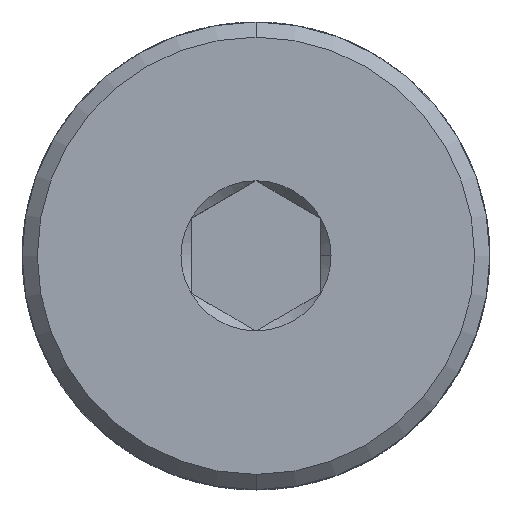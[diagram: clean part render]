
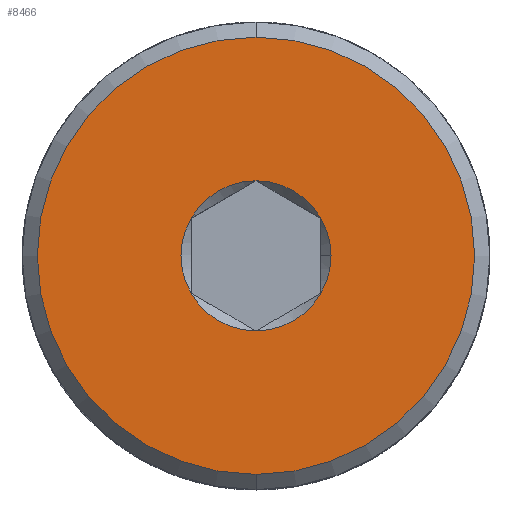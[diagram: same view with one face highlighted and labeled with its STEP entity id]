
A CAD part, top view. The second image highlights one B-rep face of the part: STEP entity #8466.
In plain terms, the highlighted planar face has unit normal (0, 0, 1).
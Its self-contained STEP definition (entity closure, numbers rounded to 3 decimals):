
#222 = AXIS2_PLACEMENT_3D ( 'NONE', #8044, #8034, #8017 ) ;
#1772 = VERTEX_POINT ( 'NONE', #4911 ) ;
#1993 = CARTESIAN_POINT ( 'NONE',  ( 0., 0., 0. ) ) ;
#2443 = FACE_BOUND ( 'NONE', #6124, .T. ) ;
#2459 = EDGE_CURVE ( 'NONE', #1772, #4855, #5043, .T. ) ;
#2600 = AXIS2_PLACEMENT_3D ( 'NONE', #6336, #6215, #6118 ) ;
#2688 = DIRECTION ( 'NONE',  ( 0., -1., 0. ) ) ;
#3031 = DIRECTION ( 'NONE',  ( 0., 0., 1. ) ) ;
#3093 = DIRECTION ( 'NONE',  ( 1., 0., 0. ) ) ;
#3151 = DIRECTION ( 'NONE',  ( 0., 0., 1. ) ) ;
#3309 = VERTEX_POINT ( 'NONE', #12636 ) ;
#3352 = EDGE_LOOP ( 'NONE', ( #12142, #11910 ) ) ;
#3426 = PLANE ( 'NONE',  #7536 ) ;
#3622 = CARTESIAN_POINT ( 'NONE',  ( 0., 0., 0. ) ) ;
#3768 = ORIENTED_EDGE ( 'NONE', *, *, #5733, .F. ) ;
#4000 = CARTESIAN_POINT ( 'NONE',  ( 0., 0., 0. ) ) ;
#4042 = CARTESIAN_POINT ( 'NONE',  ( 1.25, -0.722, 0. ) ) ;
#4107 = AXIS2_PLACEMENT_3D ( 'NONE', #3622, #11524, #4921 ) ;
#4365 = CARTESIAN_POINT ( 'NONE',  ( 1.25, 0.722, 0. ) ) ;
#4753 = CIRCLE ( 'NONE', #10104, 1.443 ) ;
#4855 = VERTEX_POINT ( 'NONE', #11691 ) ;
#4896 = CIRCLE ( 'NONE', #222, 1.443 ) ;
#4911 = CARTESIAN_POINT ( 'NONE',  ( 0., 1.443, 0. ) ) ;
#4921 = DIRECTION ( 'NONE',  ( 0., -1., 0. ) ) ;
#5037 = DIRECTION ( 'NONE',  ( 1., 0., 0. ) ) ;
#5043 = CIRCLE ( 'NONE', #7466, 1.443 ) ;
#5086 = VERTEX_POINT ( 'NONE', #4042 ) ;
#5309 = AXIS2_PLACEMENT_3D ( 'NONE', #5723, #5676, #5037 ) ;
#5676 = DIRECTION ( 'NONE',  ( 0., 0., 1. ) ) ;
#5723 = CARTESIAN_POINT ( 'NONE',  ( 0., 0., 0. ) ) ;
#5733 = EDGE_CURVE ( 'NONE', #4855, #8852, #4753, .T. ) ;
#6019 = EDGE_CURVE ( 'NONE', #5086, #11053, #7672, .T. ) ;
#6093 = ORIENTED_EDGE ( 'NONE', *, *, #10974, .F. ) ;
#6118 = DIRECTION ( 'NONE',  ( 1., 0., 0. ) ) ;
#6124 = EDGE_LOOP ( 'NONE', ( #11684, #9141, #3768, #11615, #6093, #11949, #11664 ) ) ;
#6215 = DIRECTION ( 'NONE',  ( 0., 0., 1. ) ) ;
#6336 = CARTESIAN_POINT ( 'NONE',  ( 0., 0., 0. ) ) ;
#6384 = CARTESIAN_POINT ( 'NONE',  ( 0., 0., 0. ) ) ;
#6589 = CARTESIAN_POINT ( 'NONE',  ( 0., -4.207, 0. ) ) ;
#7064 = CIRCLE ( 'NONE', #7333, 1.443 ) ;
#7306 = DIRECTION ( 'NONE',  ( 0., 0., 1. ) ) ;
#7333 = AXIS2_PLACEMENT_3D ( 'NONE', #4000, #3151, #3093 ) ;
#7466 = AXIS2_PLACEMENT_3D ( 'NONE', #8589, #8634, #8654 ) ;
#7536 = AXIS2_PLACEMENT_3D ( 'NONE', #6384, #3031, #2688 ) ;
#7537 = CARTESIAN_POINT ( 'NONE',  ( 1.443, 0., 0. ) ) ;
#7583 = VERTEX_POINT ( 'NONE', #11534 ) ;
#7627 = CIRCLE ( 'NONE', #5309, 1.443 ) ;
#7672 = CIRCLE ( 'NONE', #11225, 1.443 ) ;
#7780 = EDGE_CURVE ( 'NONE', #8852, #7583, #7627, .T. ) ;
#8017 = DIRECTION ( 'NONE',  ( 1., 0., 0. ) ) ;
#8034 = DIRECTION ( 'NONE',  ( 0., 0., 1. ) ) ;
#8044 = CARTESIAN_POINT ( 'NONE',  ( 0., 0., 0. ) ) ;
#8075 = EDGE_CURVE ( 'NONE', #7583, #5086, #7064, .T. ) ;
#8457 = EDGE_CURVE ( 'NONE', #11053, #11508, #9216, .T. ) ;
#8466 = ADVANCED_FACE ( 'NONE', ( #2443, #8868 ), #3426, .T. ) ;
#8538 = CARTESIAN_POINT ( 'NONE',  ( -1.25, -0.722, 0. ) ) ;
#8589 = CARTESIAN_POINT ( 'NONE',  ( 0., 0., 0. ) ) ;
#8634 = DIRECTION ( 'NONE',  ( 0., 0., 1. ) ) ;
#8654 = DIRECTION ( 'NONE',  ( 1., 0., 0. ) ) ;
#8826 = EDGE_CURVE ( 'NONE', #3309, #14027, #10851, .T. ) ;
#8852 = VERTEX_POINT ( 'NONE', #8538 ) ;
#8868 = FACE_OUTER_BOUND ( 'NONE', #3352, .T. ) ;
#8972 = CIRCLE ( 'NONE', #4107, 4.207 ) ;
#9141 = ORIENTED_EDGE ( 'NONE', *, *, #7780, .F. ) ;
#9216 = CIRCLE ( 'NONE', #2600, 1.443 ) ;
#9651 = DIRECTION ( 'NONE',  ( 0., -1., 0. ) ) ;
#9782 = CARTESIAN_POINT ( 'NONE',  ( 0., 0., 0. ) ) ;
#10104 = AXIS2_PLACEMENT_3D ( 'NONE', #13593, #13139, #13102 ) ;
#10406 = DIRECTION ( 'NONE',  ( 1., 0., 0. ) ) ;
#10449 = DIRECTION ( 'NONE',  ( 0., 0., 1. ) ) ;
#10851 = CIRCLE ( 'NONE', #13514, 4.207 ) ;
#10974 = EDGE_CURVE ( 'NONE', #11508, #1772, #4896, .T. ) ;
#11053 = VERTEX_POINT ( 'NONE', #7537 ) ;
#11225 = AXIS2_PLACEMENT_3D ( 'NONE', #1993, #7306, #10406 ) ;
#11508 = VERTEX_POINT ( 'NONE', #4365 ) ;
#11524 = DIRECTION ( 'NONE',  ( 0., 0., 1. ) ) ;
#11534 = CARTESIAN_POINT ( 'NONE',  ( 0., -1.443, 0. ) ) ;
#11615 = ORIENTED_EDGE ( 'NONE', *, *, #2459, .F. ) ;
#11664 = ORIENTED_EDGE ( 'NONE', *, *, #6019, .F. ) ;
#11684 = ORIENTED_EDGE ( 'NONE', *, *, #8075, .F. ) ;
#11691 = CARTESIAN_POINT ( 'NONE',  ( -1.25, 0.722, 0. ) ) ;
#11910 = ORIENTED_EDGE ( 'NONE', *, *, #13802, .T. ) ;
#11949 = ORIENTED_EDGE ( 'NONE', *, *, #8457, .F. ) ;
#12142 = ORIENTED_EDGE ( 'NONE', *, *, #8826, .T. ) ;
#12636 = CARTESIAN_POINT ( 'NONE',  ( 0., 4.207, 0. ) ) ;
#13102 = DIRECTION ( 'NONE',  ( 1., 0., 0. ) ) ;
#13139 = DIRECTION ( 'NONE',  ( 0., 0., 1. ) ) ;
#13514 = AXIS2_PLACEMENT_3D ( 'NONE', #9782, #10449, #9651 ) ;
#13593 = CARTESIAN_POINT ( 'NONE',  ( 0., 0., 0. ) ) ;
#13802 = EDGE_CURVE ( 'NONE', #14027, #3309, #8972, .T. ) ;
#14027 = VERTEX_POINT ( 'NONE', #6589 ) ;
